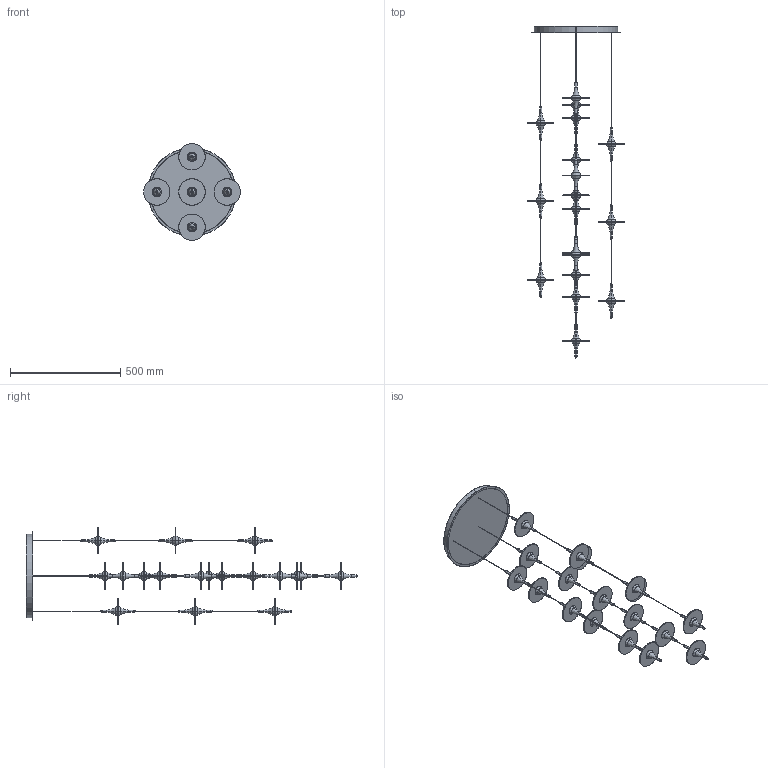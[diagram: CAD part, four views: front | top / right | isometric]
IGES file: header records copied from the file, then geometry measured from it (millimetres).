
Start section: SolidWorks IGES file using analytic representation for surfaces
Global section: file name: F:\燠隴矨\3D\2026-4\Starfall Staircase Chandelier-18Lights.IGS,15; native system: HSolidWorks 2022; preprocessor: SolidWorks 2022; author: MyPC; date: 260409.163622; units: millimetre
Bounding box: 440 x 1507.01 x 440 mm (x, y, z)
Surface area: 1228434.2 mm2 (no closed solid volume)
Topology: 0 solids, 0 shells, 499 faces, 7104 edges, 7044 vertices
Faces by surface type: bspline 303, revolution 196
